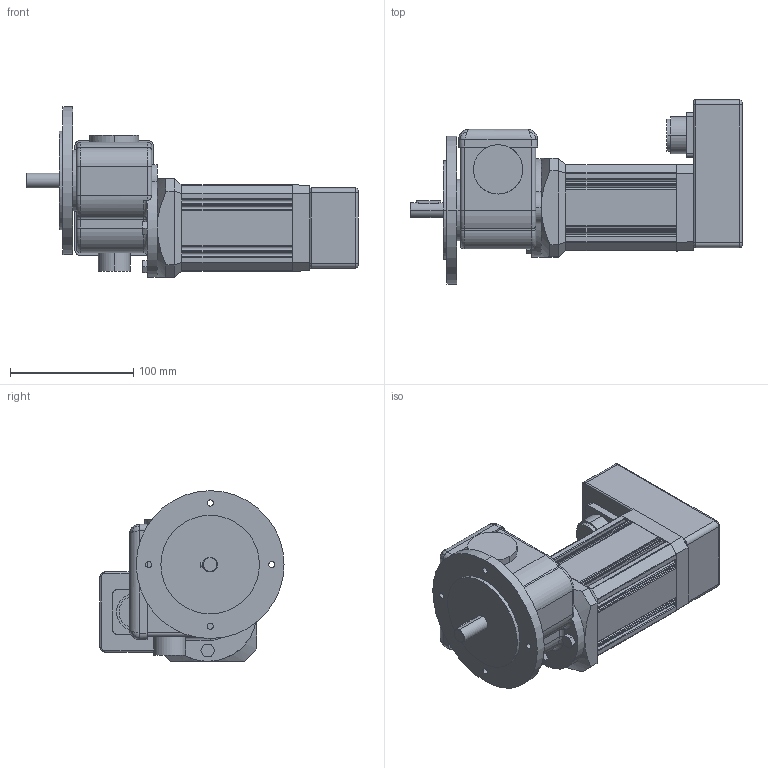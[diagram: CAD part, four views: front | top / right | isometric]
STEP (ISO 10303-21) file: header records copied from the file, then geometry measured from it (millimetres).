
FILE_DESCRIPTION(('OneSpaceDesigner STEP Export'),'2;1');
FILE_NAME('UECG303TH_GF23-10_Q.stp','2008-06-25T11:27:13',(''),(''),'OneSpace Designer STEP processor (Jan. 2003) for AP214(CD)(Solid Model)','OneSpace Designer 12.01D 09-Jul-2004 (C) CoCreate Software GmbH','');
FILE_SCHEMA(('AUTOMOTIVE_DESIGN_CC2 {1 2 10303 214 -1 1 5 1}'));
Length unit declared in the file: millimetre
Products named in the file (2): UECG303TH_GF23-10_Q
Assembly tree (1 placements, depth 2):
  UECG303TH_GF23-10_Q
    UECG303TH_GF23-10_Q
Bounding box: 269.5 x 149.5 x 138.5 mm (x, y, z)
Volume: 1571484.7 mm3; surface area: 137026.4 mm2
Topology: 1 solids, 1 shells, 340 faces, 858 edges, 532 vertices
Faces by surface type: plane 166, cylinder 135, torus 20, bspline 12, cone 6, sphere 1
Entity records: 12156 total; most frequent: CARTESIAN_POINT 4272, ORIENTED_EDGE 1714, DIRECTION 1526, EDGE_CURVE 857, VERTEX_POINT 532, AXIS2_PLACEMENT_3D 523, VECTOR 480, LINE 480
